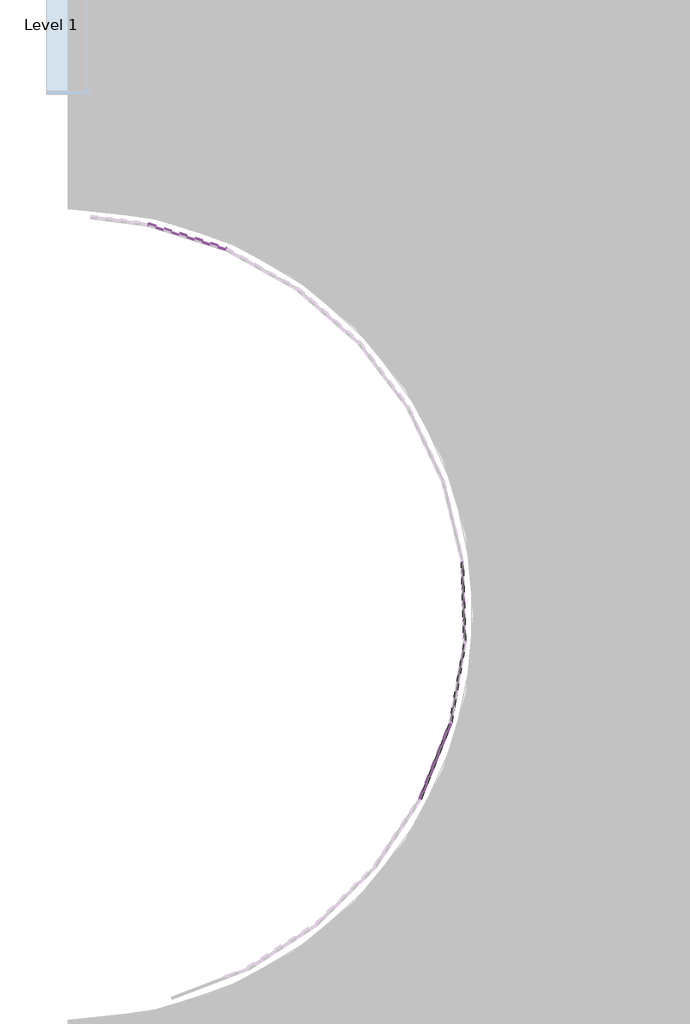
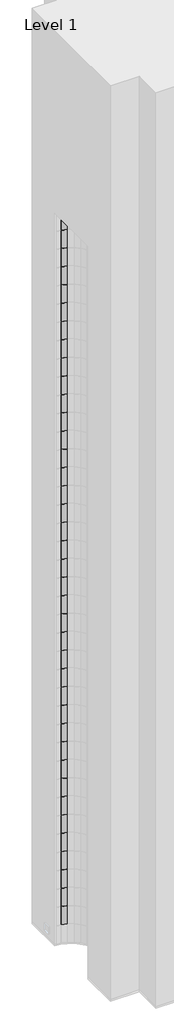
# One storey, part 5 of 20: 122 plates.
"""IFC4 building model written with IfcOpenShell, lengths in millimetres."""

from ifc_helpers import new_model, si_unit, origin, place, context, project, spatial, transform, mapped, element, save
from components import system_panel_glazed_d77d1ebf

model = new_model("IFC4")

# Units and contexts
model_context = context("Model", 3, world=origin())
ifc_project = project(units=[si_unit("LENGTHUNIT", "METRE", prefix="MILLI")], contexts=[model_context])

# Site, building, storey
site = spatial("IfcSite", under=ifc_project)
building = spatial("IfcBuilding", under=site)
storey = spatial("IfcBuildingStorey", under=building, Name="Level 1", Elevation=0.0)

# Plates
placement = place(None, origin())
system_panel_glazed_shape = system_panel_glazed_d77d1ebf(model_context)
element("IfcPlate", 1, ObjectType="System Panel : Glazed", at=placement, inside=storey, context=model_context, shape_type="MappedRepresentation", body=[
    mapped(system_panel_glazed_shape, transform((-10393.2415603, -1968.0681493, 3048.0), x_axis=(-0.9538156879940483, 0.30039246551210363, 0.0), y_axis=(-0.30039246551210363, -0.9538156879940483, 0.0), z_axis=(0.0, 0.0, 1.0))),
])
element("IfcPlate", 2, ObjectType="System Panel : Glazed", at=placement, inside=storey, context=model_context, shape_type="MappedRepresentation", body=[
    mapped(system_panel_glazed_shape, transform((-10393.2415603, -1968.0681493, 6096.0), x_axis=(-0.9538156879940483, 0.30039246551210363, 0.0), y_axis=(-0.30039246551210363, -0.9538156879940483, 0.0), z_axis=(0.0, 0.0, 1.0))),
])
element("IfcPlate", 3, ObjectType="System Panel : Glazed", at=placement, inside=storey, context=model_context, shape_type="MappedRepresentation", body=[
    mapped(system_panel_glazed_shape, transform((-10393.2415603, -1968.0681493, 9144.0), x_axis=(-0.9538156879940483, 0.30039246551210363, 0.0), y_axis=(-0.30039246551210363, -0.9538156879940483, 0.0), z_axis=(0.0, 0.0, 1.0))),
])
element("IfcPlate", 4, ObjectType="System Panel : Glazed", at=placement, inside=storey, context=model_context, shape_type="MappedRepresentation", body=[
    mapped(system_panel_glazed_shape, transform((-10393.2415603, -1968.0681493, 12192.0), x_axis=(-0.9538156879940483, 0.30039246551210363, 0.0), y_axis=(-0.30039246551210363, -0.9538156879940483, 0.0), z_axis=(0.0, 0.0, 1.0))),
])
element("IfcPlate", 5, ObjectType="System Panel : Glazed", at=placement, inside=storey, context=model_context, shape_type="MappedRepresentation", body=[
    mapped(system_panel_glazed_shape, transform((-10393.2415603, -1968.0681493, 15240.0), x_axis=(-0.9538156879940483, 0.30039246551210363, 0.0), y_axis=(-0.30039246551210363, -0.9538156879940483, 0.0), z_axis=(0.0, 0.0, 1.0))),
])
element("IfcPlate", 6, ObjectType="System Panel : Glazed", at=placement, inside=storey, context=model_context, shape_type="MappedRepresentation", body=[
    mapped(system_panel_glazed_shape, transform((-10393.2415603, -1968.0681493, 18288.0), x_axis=(-0.9538156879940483, 0.3003924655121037, 0.0), y_axis=(-0.3003924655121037, -0.9538156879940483, 0.0), z_axis=(0.0, 0.0, 1.0))),
])
element("IfcPlate", 7, ObjectType="System Panel : Glazed", at=placement, inside=storey, context=model_context, shape_type="MappedRepresentation", body=[
    mapped(system_panel_glazed_shape, transform((-10393.2415603, -1968.0681493, 21336.0), x_axis=(-0.9538156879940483, 0.30039246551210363, 0.0), y_axis=(-0.30039246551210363, -0.9538156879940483, 0.0), z_axis=(0.0, 0.0, 1.0))),
])
element("IfcPlate", 8, ObjectType="System Panel : Glazed", at=placement, inside=storey, context=model_context, shape_type="MappedRepresentation", body=[
    mapped(system_panel_glazed_shape, transform((-10393.2415603, -1968.0681493, 24384.0), x_axis=(-0.9538156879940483, 0.30039246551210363, 0.0), y_axis=(-0.30039246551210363, -0.9538156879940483, 0.0), z_axis=(0.0, 0.0, 1.0))),
])
element("IfcPlate", 9, ObjectType="System Panel : Glazed", at=placement, inside=storey, context=model_context, shape_type="MappedRepresentation", body=[
    mapped(system_panel_glazed_shape, transform((-10393.2415603, -1968.0681493, 27432.0), x_axis=(-0.9538156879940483, 0.30039246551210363, 0.0), y_axis=(-0.30039246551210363, -0.9538156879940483, 0.0), z_axis=(0.0, 0.0, 1.0))),
])
element("IfcPlate", 10, ObjectType="System Panel : Glazed", at=placement, inside=storey, context=model_context, shape_type="MappedRepresentation", body=[
    mapped(system_panel_glazed_shape, transform((-10393.2415603, -1968.0681493, 30480.0), x_axis=(-0.9538156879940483, 0.30039246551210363, 0.0), y_axis=(-0.30039246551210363, -0.9538156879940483, 0.0), z_axis=(0.0, 0.0, 1.0))),
])
element("IfcPlate", 11, ObjectType="System Panel : Glazed", at=placement, inside=storey, context=model_context, shape_type="MappedRepresentation", body=[
    mapped(system_panel_glazed_shape, transform((-10393.2415603, -1968.0681493, 33528.0), x_axis=(-0.9538156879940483, 0.30039246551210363, 0.0), y_axis=(-0.30039246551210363, -0.9538156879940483, 0.0), z_axis=(0.0, 0.0, 1.0))),
])
element("IfcPlate", 12, ObjectType="System Panel : Glazed", at=placement, inside=storey, context=model_context, shape_type="MappedRepresentation", body=[
    mapped(system_panel_glazed_shape, transform((-10393.2415603, -1968.0681493, 36576.0), x_axis=(-0.9538156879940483, 0.30039246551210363, 0.0), y_axis=(-0.30039246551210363, -0.9538156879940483, 0.0), z_axis=(0.0, 0.0, 1.0))),
])
element("IfcPlate", 13, ObjectType="System Panel : Glazed", at=placement, inside=storey, context=model_context, shape_type="MappedRepresentation", body=[
    mapped(system_panel_glazed_shape, transform((-10393.2415603, -1968.0681493, 39624.0), x_axis=(-0.9538156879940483, 0.30039246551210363, 0.0), y_axis=(-0.30039246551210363, -0.9538156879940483, 0.0), z_axis=(0.0, 0.0, 1.0))),
])
element("IfcPlate", 14, ObjectType="System Panel : Glazed", at=placement, inside=storey, context=model_context, shape_type="MappedRepresentation", body=[
    mapped(system_panel_glazed_shape, transform((-10393.2415603, -1968.0681493, 42672.0), x_axis=(-0.9538156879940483, 0.30039246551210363, 0.0), y_axis=(-0.30039246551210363, -0.9538156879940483, 0.0), z_axis=(0.0, 0.0, 1.0))),
])
element("IfcPlate", 15, ObjectType="System Panel : Glazed", at=placement, inside=storey, context=model_context, shape_type="MappedRepresentation", body=[
    mapped(system_panel_glazed_shape, transform((-10393.2415603, -1968.0681493, 45720.0), x_axis=(-0.9538156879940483, 0.30039246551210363, 0.0), y_axis=(-0.30039246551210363, -0.9538156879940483, 0.0), z_axis=(0.0, 0.0, 1.0))),
])
element("IfcPlate", 16, ObjectType="System Panel : Glazed", at=placement, inside=storey, context=model_context, shape_type="MappedRepresentation", body=[
    mapped(system_panel_glazed_shape, transform((-10393.2415603, -1968.0681493, 48768.0), x_axis=(-0.9538156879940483, 0.30039246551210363, 0.0), y_axis=(-0.30039246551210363, -0.9538156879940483, 0.0), z_axis=(0.0, 0.0, 1.0))),
])
element("IfcPlate", 17, ObjectType="System Panel : Glazed", at=placement, inside=storey, context=model_context, shape_type="MappedRepresentation", body=[
    mapped(system_panel_glazed_shape, transform((-10393.2415603, -1968.0681493, 51816.0), x_axis=(-0.9538156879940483, 0.30039246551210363, 0.0), y_axis=(-0.30039246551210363, -0.9538156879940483, 0.0), z_axis=(0.0, 0.0, 1.0))),
])
element("IfcPlate", 18, ObjectType="System Panel : Glazed", at=placement, inside=storey, context=model_context, shape_type="MappedRepresentation", body=[
    mapped(system_panel_glazed_shape, transform((-10393.2415603, -1968.0681493, 54864.0), x_axis=(-0.9538156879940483, 0.30039246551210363, 0.0), y_axis=(-0.30039246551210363, -0.9538156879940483, 0.0), z_axis=(0.0, 0.0, 1.0))),
])
element("IfcPlate", 19, ObjectType="System Panel : Glazed", at=placement, inside=storey, context=model_context, shape_type="MappedRepresentation", body=[
    mapped(system_panel_glazed_shape, transform((-10393.2415603, -1968.0681493, 57912.0), x_axis=(-0.9538156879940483, 0.30039246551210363, 0.0), y_axis=(-0.30039246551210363, -0.9538156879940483, 0.0), z_axis=(0.0, 0.0, 1.0))),
])
element("IfcPlate", 20, ObjectType="System Panel : Glazed", at=placement, inside=storey, context=model_context, shape_type="MappedRepresentation", body=[
    mapped(system_panel_glazed_shape, transform((-10393.2415603, -1968.0681493, 60960.0), x_axis=(-0.9538156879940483, 0.30039246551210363, 0.0), y_axis=(-0.30039246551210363, -0.9538156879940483, 0.0), z_axis=(0.0, 0.0, 1.0))),
])
element("IfcPlate", 21, ObjectType="System Panel : Glazed", at=placement, inside=storey, context=model_context, shape_type="MappedRepresentation", body=[
    mapped(system_panel_glazed_shape, transform((-10393.2415603, -1968.0681493, 64008.0), x_axis=(-0.9538156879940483, 0.30039246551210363, 0.0), y_axis=(-0.30039246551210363, -0.9538156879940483, 0.0), z_axis=(0.0, 0.0, 1.0))),
])
element("IfcPlate", 22, ObjectType="System Panel : Glazed", at=placement, inside=storey, context=model_context, shape_type="MappedRepresentation", body=[
    mapped(system_panel_glazed_shape, transform((-10393.2415603, -1968.0681493, 67056.0), x_axis=(-0.9538156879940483, 0.30039246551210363, 0.0), y_axis=(-0.30039246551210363, -0.9538156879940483, 0.0), z_axis=(0.0, 0.0, 1.0))),
])
element("IfcPlate", 23, ObjectType="System Panel : Glazed", at=placement, inside=storey, context=model_context, shape_type="MappedRepresentation", body=[
    mapped(system_panel_glazed_shape, transform((-10393.2415603, -1968.0681493, 70104.0), x_axis=(-0.9538156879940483, 0.30039246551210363, 0.0), y_axis=(-0.30039246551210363, -0.9538156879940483, 0.0), z_axis=(0.0, 0.0, 1.0))),
])
element("IfcPlate", 24, ObjectType="System Panel : Glazed", at=placement, inside=storey, context=model_context, shape_type="MappedRepresentation", body=[
    mapped(system_panel_glazed_shape, transform((-10393.2415603, -1968.0681493, 73152.0), x_axis=(-0.9538156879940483, 0.30039246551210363, 0.0), y_axis=(-0.30039246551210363, -0.9538156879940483, 0.0), z_axis=(0.0, 0.0, 1.0))),
])
element("IfcPlate", 25, ObjectType="System Panel : Glazed", at=placement, inside=storey, context=model_context, shape_type="MappedRepresentation", body=[
    mapped(system_panel_glazed_shape, transform((-10393.2415603, -1968.0681493, 76200.0), x_axis=(-0.9538156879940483, 0.30039246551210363, 0.0), y_axis=(-0.30039246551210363, -0.9538156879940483, 0.0), z_axis=(0.0, 0.0, 1.0))),
])
element("IfcPlate", 26, ObjectType="System Panel : Glazed", at=placement, inside=storey, context=model_context, shape_type="MappedRepresentation", body=[
    mapped(system_panel_glazed_shape, transform((-10393.2415603, -1968.0681493, 79248.0), x_axis=(-0.9538156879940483, 0.30039246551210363, 0.0), y_axis=(-0.30039246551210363, -0.9538156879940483, 0.0), z_axis=(0.0, 0.0, 1.0))),
])
element("IfcPlate", 27, ObjectType="System Panel : Glazed", at=placement, inside=storey, context=model_context, shape_type="MappedRepresentation", body=[
    mapped(system_panel_glazed_shape, transform((-10393.2415603, -1968.0681493, 82296.0), x_axis=(-0.9538156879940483, 0.30039246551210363, 0.0), y_axis=(-0.30039246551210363, -0.9538156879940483, 0.0), z_axis=(0.0, 0.0, 1.0))),
])
element("IfcPlate", 28, ObjectType="System Panel : Glazed", at=placement, inside=storey, context=model_context, shape_type="MappedRepresentation", body=[
    mapped(system_panel_glazed_shape, transform((-10393.2415603, -1968.0681493, 85344.0), x_axis=(-0.9538156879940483, 0.30039246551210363, 0.0), y_axis=(-0.30039246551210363, -0.9538156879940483, 0.0), z_axis=(0.0, 0.0, 1.0))),
])
element("IfcPlate", 29, ObjectType="System Panel : Glazed", at=placement, inside=storey, context=model_context, shape_type="MappedRepresentation", body=[
    mapped(system_panel_glazed_shape, transform((-10393.2415603, -1968.0681493, 88392.0), x_axis=(-0.9538156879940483, 0.30039246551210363, 0.0), y_axis=(-0.30039246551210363, -0.9538156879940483, 0.0), z_axis=(0.0, 0.0, 1.0))),
])
element("IfcPlate", 30, ObjectType="System Panel : Glazed", at=placement, inside=storey, context=model_context, shape_type="MappedRepresentation", body=[
    mapped(system_panel_glazed_shape, transform((-10393.2415603, -1968.0681493, 91440.0), x_axis=(-0.9538156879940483, 0.30039246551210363, 0.0), y_axis=(-0.30039246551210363, -0.9538156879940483, 0.0), z_axis=(0.0, 0.0, 1.0))),
])
element("IfcPlate", 31, ObjectType="System Panel : Glazed", at=placement, inside=storey, context=model_context, shape_type="MappedRepresentation", body=[
    mapped(system_panel_glazed_shape, transform((-10393.2415603, -1968.0681493, 94488.0), x_axis=(-0.9538156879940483, 0.30039246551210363, 0.0), y_axis=(-0.30039246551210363, -0.9538156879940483, 0.0), z_axis=(0.0, 0.0, 1.0))),
])
element("IfcPlate", 32, ObjectType="System Panel : Glazed", at=placement, inside=storey, context=model_context, shape_type="MappedRepresentation", body=[
    mapped(system_panel_glazed_shape, transform((-10393.2415603, -1968.0681493, 97536.0), x_axis=(-0.9538156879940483, 0.30039246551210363, 0.0), y_axis=(-0.30039246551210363, -0.9538156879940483, 0.0), z_axis=(0.0, 0.0, 1.0))),
])
element("IfcPlate", 33, ObjectType="System Panel : Glazed", at=placement, inside=storey, context=model_context, shape_type="MappedRepresentation", body=[
    mapped(system_panel_glazed_shape, transform((-10393.2415603, -1968.0681493, 100584.0), x_axis=(-0.9538156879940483, 0.30039246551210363, 0.0), y_axis=(-0.30039246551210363, -0.9538156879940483, 0.0), z_axis=(0.0, 0.0, 1.0))),
])
element("IfcPlate", 34, ObjectType="System Panel : Glazed", at=placement, inside=storey, context=model_context, shape_type="MappedRepresentation", body=[
    mapped(system_panel_glazed_shape, transform((-7299.7516351, -6055.1517633, 0.0), x_axis=(-0.03010086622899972, 0.9995468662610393, 0.0), y_axis=(-0.9995468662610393, -0.03010086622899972, 0.0), z_axis=(0.0, 0.0, 1.0))),
])
element("IfcPlate", 35, ObjectType="System Panel : Glazed", at=placement, inside=storey, context=model_context, shape_type="MappedRepresentation", body=[
    mapped(system_panel_glazed_shape, transform((-7299.7516351, -6055.1517633, 3048.0), x_axis=(-0.03010086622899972, 0.9995468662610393, 0.0), y_axis=(-0.9995468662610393, -0.03010086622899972, 0.0), z_axis=(0.0, 0.0, 1.0))),
])
element("IfcPlate", 36, ObjectType="System Panel : Glazed", at=placement, inside=storey, context=model_context, shape_type="MappedRepresentation", body=[
    mapped(system_panel_glazed_shape, transform((-7299.7516351, -6055.1517633, 6096.0), x_axis=(-0.03010086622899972, 0.9995468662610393, 0.0), y_axis=(-0.9995468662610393, -0.03010086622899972, 0.0), z_axis=(0.0, 0.0, 1.0))),
])
element("IfcPlate", 37, ObjectType="System Panel : Glazed", at=placement, inside=storey, context=model_context, shape_type="MappedRepresentation", body=[
    mapped(system_panel_glazed_shape, transform((-7299.7516351, -6055.1517633, 9144.0), x_axis=(-0.03010086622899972, 0.9995468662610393, 0.0), y_axis=(-0.9995468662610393, -0.03010086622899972, 0.0), z_axis=(0.0, 0.0, 1.0))),
])
element("IfcPlate", 38, ObjectType="System Panel : Glazed", at=placement, inside=storey, context=model_context, shape_type="MappedRepresentation", body=[
    mapped(system_panel_glazed_shape, transform((-7299.7516351, -6055.1517633, 12192.0), x_axis=(-0.03010086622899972, 0.9995468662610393, 0.0), y_axis=(-0.9995468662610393, -0.03010086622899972, 0.0), z_axis=(0.0, 0.0, 1.0))),
])
element("IfcPlate", 39, ObjectType="System Panel : Glazed", at=placement, inside=storey, context=model_context, shape_type="MappedRepresentation", body=[
    mapped(system_panel_glazed_shape, transform((-7299.7516351, -6055.1517633, 15240.0), x_axis=(-0.03010086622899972, 0.9995468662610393, 0.0), y_axis=(-0.9995468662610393, -0.03010086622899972, 0.0), z_axis=(0.0, 0.0, 1.0))),
])
element("IfcPlate", 40, ObjectType="System Panel : Glazed", at=placement, inside=storey, context=model_context, shape_type="MappedRepresentation", body=[
    mapped(system_panel_glazed_shape, transform((-7299.7516351, -6055.1517633, 18288.0), x_axis=(-0.030100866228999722, 0.9995468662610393, 0.0), y_axis=(-0.9995468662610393, -0.030100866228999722, 0.0), z_axis=(0.0, 0.0, 1.0))),
])
element("IfcPlate", 41, ObjectType="System Panel : Glazed", at=placement, inside=storey, context=model_context, shape_type="MappedRepresentation", body=[
    mapped(system_panel_glazed_shape, transform((-7299.7516351, -6055.1517633, 21336.0), x_axis=(-0.03010086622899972, 0.9995468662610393, 0.0), y_axis=(-0.9995468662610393, -0.03010086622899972, 0.0), z_axis=(0.0, 0.0, 1.0))),
])
element("IfcPlate", 42, ObjectType="System Panel : Glazed", at=placement, inside=storey, context=model_context, shape_type="MappedRepresentation", body=[
    mapped(system_panel_glazed_shape, transform((-7299.7516351, -6055.1517633, 24384.0), x_axis=(-0.03010086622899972, 0.9995468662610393, 0.0), y_axis=(-0.9995468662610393, -0.03010086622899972, 0.0), z_axis=(0.0, 0.0, 1.0))),
])
element("IfcPlate", 43, ObjectType="System Panel : Glazed", at=placement, inside=storey, context=model_context, shape_type="MappedRepresentation", body=[
    mapped(system_panel_glazed_shape, transform((-7299.7516351, -6055.1517633, 27432.0), x_axis=(-0.03010086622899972, 0.9995468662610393, 0.0), y_axis=(-0.9995468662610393, -0.03010086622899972, 0.0), z_axis=(0.0, 0.0, 1.0))),
])
element("IfcPlate", 44, ObjectType="System Panel : Glazed", at=placement, inside=storey, context=model_context, shape_type="MappedRepresentation", body=[
    mapped(system_panel_glazed_shape, transform((-7299.7516351, -6055.1517633, 30480.0), x_axis=(-0.03010086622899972, 0.9995468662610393, 0.0), y_axis=(-0.9995468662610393, -0.03010086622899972, 0.0), z_axis=(0.0, 0.0, 1.0))),
])
element("IfcPlate", 45, ObjectType="System Panel : Glazed", at=placement, inside=storey, context=model_context, shape_type="MappedRepresentation", body=[
    mapped(system_panel_glazed_shape, transform((-7299.7516351, -6055.1517633, 33528.0), x_axis=(-0.03010086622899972, 0.9995468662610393, 0.0), y_axis=(-0.9995468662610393, -0.03010086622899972, 0.0), z_axis=(0.0, 0.0, 1.0))),
])
element("IfcPlate", 46, ObjectType="System Panel : Glazed", at=placement, inside=storey, context=model_context, shape_type="MappedRepresentation", body=[
    mapped(system_panel_glazed_shape, transform((-7299.7516351, -6055.1517633, 36576.0), x_axis=(-0.03010086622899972, 0.9995468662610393, 0.0), y_axis=(-0.9995468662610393, -0.03010086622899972, 0.0), z_axis=(0.0, 0.0, 1.0))),
])
element("IfcPlate", 47, ObjectType="System Panel : Glazed", at=placement, inside=storey, context=model_context, shape_type="MappedRepresentation", body=[
    mapped(system_panel_glazed_shape, transform((-7299.7516351, -6055.1517633, 39624.0), x_axis=(-0.03010086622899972, 0.9995468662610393, 0.0), y_axis=(-0.9995468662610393, -0.03010086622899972, 0.0), z_axis=(0.0, 0.0, 1.0))),
])
element("IfcPlate", 48, ObjectType="System Panel : Glazed", at=placement, inside=storey, context=model_context, shape_type="MappedRepresentation", body=[
    mapped(system_panel_glazed_shape, transform((-7299.7516351, -6055.1517633, 42672.0), x_axis=(-0.03010086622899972, 0.9995468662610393, 0.0), y_axis=(-0.9995468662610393, -0.03010086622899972, 0.0), z_axis=(0.0, 0.0, 1.0))),
])
element("IfcPlate", 49, ObjectType="System Panel : Glazed", at=placement, inside=storey, context=model_context, shape_type="MappedRepresentation", body=[
    mapped(system_panel_glazed_shape, transform((-7299.7516351, -6055.1517633, 45720.0), x_axis=(-0.03010086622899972, 0.9995468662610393, 0.0), y_axis=(-0.9995468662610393, -0.03010086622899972, 0.0), z_axis=(0.0, 0.0, 1.0))),
])
element("IfcPlate", 50, ObjectType="System Panel : Glazed", at=placement, inside=storey, context=model_context, shape_type="MappedRepresentation", body=[
    mapped(system_panel_glazed_shape, transform((-7299.7516351, -6055.1517633, 48768.0), x_axis=(-0.03010086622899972, 0.9995468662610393, 0.0), y_axis=(-0.9995468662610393, -0.03010086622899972, 0.0), z_axis=(0.0, 0.0, 1.0))),
])
element("IfcPlate", 51, ObjectType="System Panel : Glazed", at=placement, inside=storey, context=model_context, shape_type="MappedRepresentation", body=[
    mapped(system_panel_glazed_shape, transform((-7299.7516351, -6055.1517633, 51816.0), x_axis=(-0.03010086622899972, 0.9995468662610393, 0.0), y_axis=(-0.9995468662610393, -0.03010086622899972, 0.0), z_axis=(0.0, 0.0, 1.0))),
])
element("IfcPlate", 52, ObjectType="System Panel : Glazed", at=placement, inside=storey, context=model_context, shape_type="MappedRepresentation", body=[
    mapped(system_panel_glazed_shape, transform((-7299.7516351, -6055.1517633, 54864.0), x_axis=(-0.03010086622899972, 0.9995468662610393, 0.0), y_axis=(-0.9995468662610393, -0.03010086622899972, 0.0), z_axis=(0.0, 0.0, 1.0))),
])
element("IfcPlate", 53, ObjectType="System Panel : Glazed", at=placement, inside=storey, context=model_context, shape_type="MappedRepresentation", body=[
    mapped(system_panel_glazed_shape, transform((-7299.7516351, -6055.1517633, 57912.0), x_axis=(-0.03010086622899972, 0.9995468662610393, 0.0), y_axis=(-0.9995468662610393, -0.03010086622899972, 0.0), z_axis=(0.0, 0.0, 1.0))),
])
element("IfcPlate", 54, ObjectType="System Panel : Glazed", at=placement, inside=storey, context=model_context, shape_type="MappedRepresentation", body=[
    mapped(system_panel_glazed_shape, transform((-7299.7516351, -6055.1517633, 60960.0), x_axis=(-0.03010086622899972, 0.9995468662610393, 0.0), y_axis=(-0.9995468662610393, -0.03010086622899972, 0.0), z_axis=(0.0, 0.0, 1.0))),
])
element("IfcPlate", 55, ObjectType="System Panel : Glazed", at=placement, inside=storey, context=model_context, shape_type="MappedRepresentation", body=[
    mapped(system_panel_glazed_shape, transform((-7299.7516351, -6055.1517633, 64008.0), x_axis=(-0.03010086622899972, 0.9995468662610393, 0.0), y_axis=(-0.9995468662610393, -0.03010086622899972, 0.0), z_axis=(0.0, 0.0, 1.0))),
])
element("IfcPlate", 56, ObjectType="System Panel : Glazed", at=placement, inside=storey, context=model_context, shape_type="MappedRepresentation", body=[
    mapped(system_panel_glazed_shape, transform((-7299.7516351, -6055.1517633, 67056.0), x_axis=(-0.03010086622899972, 0.9995468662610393, 0.0), y_axis=(-0.9995468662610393, -0.03010086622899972, 0.0), z_axis=(0.0, 0.0, 1.0))),
])
element("IfcPlate", 57, ObjectType="System Panel : Glazed", at=placement, inside=storey, context=model_context, shape_type="MappedRepresentation", body=[
    mapped(system_panel_glazed_shape, transform((-7299.7516351, -6055.1517633, 70104.0), x_axis=(-0.03010086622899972, 0.9995468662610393, 0.0), y_axis=(-0.9995468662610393, -0.03010086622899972, 0.0), z_axis=(0.0, 0.0, 1.0))),
])
element("IfcPlate", 58, ObjectType="System Panel : Glazed", at=placement, inside=storey, context=model_context, shape_type="MappedRepresentation", body=[
    mapped(system_panel_glazed_shape, transform((-7299.7516351, -6055.1517633, 73152.0), x_axis=(-0.03010086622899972, 0.9995468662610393, 0.0), y_axis=(-0.9995468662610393, -0.03010086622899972, 0.0), z_axis=(0.0, 0.0, 1.0))),
])
element("IfcPlate", 59, ObjectType="System Panel : Glazed", at=placement, inside=storey, context=model_context, shape_type="MappedRepresentation", body=[
    mapped(system_panel_glazed_shape, transform((-7299.7516351, -6055.1517633, 76200.0), x_axis=(-0.03010086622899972, 0.9995468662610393, 0.0), y_axis=(-0.9995468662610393, -0.03010086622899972, 0.0), z_axis=(0.0, 0.0, 1.0))),
])
element("IfcPlate", 60, ObjectType="System Panel : Glazed", at=placement, inside=storey, context=model_context, shape_type="MappedRepresentation", body=[
    mapped(system_panel_glazed_shape, transform((-7299.7516351, -6055.1517633, 79248.0), x_axis=(-0.03010086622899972, 0.9995468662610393, 0.0), y_axis=(-0.9995468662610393, -0.03010086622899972, 0.0), z_axis=(0.0, 0.0, 1.0))),
])
element("IfcPlate", 61, ObjectType="System Panel : Glazed", at=placement, inside=storey, context=model_context, shape_type="MappedRepresentation", body=[
    mapped(system_panel_glazed_shape, transform((-7299.7516351, -6055.1517633, 82296.0), x_axis=(-0.03010086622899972, 0.9995468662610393, 0.0), y_axis=(-0.9995468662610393, -0.03010086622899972, 0.0), z_axis=(0.0, 0.0, 1.0))),
])
element("IfcPlate", 62, ObjectType="System Panel : Glazed", at=placement, inside=storey, context=model_context, shape_type="MappedRepresentation", body=[
    mapped(system_panel_glazed_shape, transform((-7299.7516351, -6055.1517633, 85344.0), x_axis=(-0.03010086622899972, 0.9995468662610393, 0.0), y_axis=(-0.9995468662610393, -0.03010086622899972, 0.0), z_axis=(0.0, 0.0, 1.0))),
])
element("IfcPlate", 63, ObjectType="System Panel : Glazed", at=placement, inside=storey, context=model_context, shape_type="MappedRepresentation", body=[
    mapped(system_panel_glazed_shape, transform((-7299.7516351, -6055.1517633, 88392.0), x_axis=(-0.03010086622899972, 0.9995468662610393, 0.0), y_axis=(-0.9995468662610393, -0.03010086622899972, 0.0), z_axis=(0.0, 0.0, 1.0))),
])
element("IfcPlate", 64, ObjectType="System Panel : Glazed", at=placement, inside=storey, context=model_context, shape_type="MappedRepresentation", body=[
    mapped(system_panel_glazed_shape, transform((-7299.7516351, -6055.1517633, 91440.0), x_axis=(-0.03010086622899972, 0.9995468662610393, 0.0), y_axis=(-0.9995468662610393, -0.03010086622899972, 0.0), z_axis=(0.0, 0.0, 1.0))),
])
element("IfcPlate", 65, ObjectType="System Panel : Glazed", at=placement, inside=storey, context=model_context, shape_type="MappedRepresentation", body=[
    mapped(system_panel_glazed_shape, transform((-7299.7516351, -6055.1517633, 94488.0), x_axis=(-0.03010086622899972, 0.9995468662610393, 0.0), y_axis=(-0.9995468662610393, -0.03010086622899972, 0.0), z_axis=(0.0, 0.0, 1.0))),
])
element("IfcPlate", 66, ObjectType="System Panel : Glazed", at=placement, inside=storey, context=model_context, shape_type="MappedRepresentation", body=[
    mapped(system_panel_glazed_shape, transform((-7299.7516351, -6055.1517633, 97536.0), x_axis=(-0.03010086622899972, 0.9995468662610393, 0.0), y_axis=(-0.9995468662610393, -0.03010086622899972, 0.0), z_axis=(0.0, 0.0, 1.0))),
])
element("IfcPlate", 67, ObjectType="System Panel : Glazed", at=placement, inside=storey, context=model_context, shape_type="MappedRepresentation", body=[
    mapped(system_panel_glazed_shape, transform((-7299.7516351, -6055.1517633, 100584.0), x_axis=(-0.03010086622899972, 0.9995468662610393, 0.0), y_axis=(-0.9995468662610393, -0.03010086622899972, 0.0), z_axis=(0.0, 0.0, 1.0))),
])
element("IfcPlate", 68, ObjectType="System Panel : Glazed", at=placement, inside=storey, context=model_context, shape_type="MappedRepresentation", body=[
    mapped(system_panel_glazed_shape, transform((-7365.9634866, -6962.2956813, 0.0), x_axis=(0.1749211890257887, 0.9845824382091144, 0.0), y_axis=(-0.9845824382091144, 0.1749211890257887, 0.0), z_axis=(0.0, 0.0, 1.0))),
])
element("IfcPlate", 69, ObjectType="System Panel : Glazed", at=placement, inside=storey, context=model_context, shape_type="MappedRepresentation", body=[
    mapped(system_panel_glazed_shape, transform((-7365.9634866, -6962.2956813, 3048.0), x_axis=(0.1749211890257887, 0.9845824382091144, 0.0), y_axis=(-0.9845824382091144, 0.1749211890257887, 0.0), z_axis=(0.0, 0.0, 1.0))),
])
element("IfcPlate", 70, ObjectType="System Panel : Glazed", at=placement, inside=storey, context=model_context, shape_type="MappedRepresentation", body=[
    mapped(system_panel_glazed_shape, transform((-7365.9634866, -6962.2956813, 6096.0), x_axis=(0.1749211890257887, 0.9845824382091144, 0.0), y_axis=(-0.9845824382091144, 0.1749211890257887, 0.0), z_axis=(0.0, 0.0, 1.0))),
])
element("IfcPlate", 71, ObjectType="System Panel : Glazed", at=placement, inside=storey, context=model_context, shape_type="MappedRepresentation", body=[
    mapped(system_panel_glazed_shape, transform((-7365.9634866, -6962.2956813, 9144.0), x_axis=(0.1749211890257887, 0.9845824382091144, 0.0), y_axis=(-0.9845824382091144, 0.1749211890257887, 0.0), z_axis=(0.0, 0.0, 1.0))),
])
element("IfcPlate", 72, ObjectType="System Panel : Glazed", at=placement, inside=storey, context=model_context, shape_type="MappedRepresentation", body=[
    mapped(system_panel_glazed_shape, transform((-7365.9634866, -6962.2956813, 12192.0), x_axis=(0.1749211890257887, 0.9845824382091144, 0.0), y_axis=(-0.9845824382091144, 0.1749211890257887, 0.0), z_axis=(0.0, 0.0, 1.0))),
])
element("IfcPlate", 73, ObjectType="System Panel : Glazed", at=placement, inside=storey, context=model_context, shape_type="MappedRepresentation", body=[
    mapped(system_panel_glazed_shape, transform((-7365.9634866, -6962.2956813, 15240.0), x_axis=(0.1749211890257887, 0.9845824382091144, 0.0), y_axis=(-0.9845824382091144, 0.1749211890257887, 0.0), z_axis=(0.0, 0.0, 1.0))),
])
element("IfcPlate", 74, ObjectType="System Panel : Glazed", at=placement, inside=storey, context=model_context, shape_type="MappedRepresentation", body=[
    mapped(system_panel_glazed_shape, transform((-7365.9634866, -6962.2956813, 18288.0), x_axis=(0.1749211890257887, 0.9845824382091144, 0.0), y_axis=(-0.9845824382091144, 0.1749211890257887, 0.0), z_axis=(0.0, 0.0, 1.0))),
])
element("IfcPlate", 75, ObjectType="System Panel : Glazed", at=placement, inside=storey, context=model_context, shape_type="MappedRepresentation", body=[
    mapped(system_panel_glazed_shape, transform((-7365.9634866, -6962.2956813, 21336.0), x_axis=(0.1749211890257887, 0.9845824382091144, 0.0), y_axis=(-0.9845824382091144, 0.1749211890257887, 0.0), z_axis=(0.0, 0.0, 1.0))),
])
element("IfcPlate", 76, ObjectType="System Panel : Glazed", at=placement, inside=storey, context=model_context, shape_type="MappedRepresentation", body=[
    mapped(system_panel_glazed_shape, transform((-7365.9634866, -6962.2956813, 24384.0), x_axis=(0.1749211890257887, 0.9845824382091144, 0.0), y_axis=(-0.9845824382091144, 0.1749211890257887, 0.0), z_axis=(0.0, 0.0, 1.0))),
])
element("IfcPlate", 77, ObjectType="System Panel : Glazed", at=placement, inside=storey, context=model_context, shape_type="MappedRepresentation", body=[
    mapped(system_panel_glazed_shape, transform((-7616.2679674, -7836.7336518, 0.0), x_axis=(0.3725514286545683, 0.9280115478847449, 0.0), y_axis=(-0.9280115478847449, 0.3725514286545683, 0.0), z_axis=(0.0, 0.0, 1.0))),
])
element("IfcPlate", 78, ObjectType="System Panel : Glazed", at=placement, inside=storey, context=model_context, shape_type="MappedRepresentation", body=[
    mapped(system_panel_glazed_shape, transform((-7616.2679674, -7836.7336518, 3048.0), x_axis=(0.3725514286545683, 0.9280115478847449, 0.0), y_axis=(-0.9280115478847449, 0.3725514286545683, 0.0), z_axis=(0.0, 0.0, 1.0))),
])
element("IfcPlate", 79, ObjectType="System Panel : Glazed", at=placement, inside=storey, context=model_context, shape_type="MappedRepresentation", body=[
    mapped(system_panel_glazed_shape, transform((-7616.2679674, -7836.7336518, 6096.0), x_axis=(0.3725514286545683, 0.9280115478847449, 0.0), y_axis=(-0.9280115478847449, 0.3725514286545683, 0.0), z_axis=(0.0, 0.0, 1.0))),
])
element("IfcPlate", 80, ObjectType="System Panel : Glazed", at=placement, inside=storey, context=model_context, shape_type="MappedRepresentation", body=[
    mapped(system_panel_glazed_shape, transform((-7616.2679674, -7836.7336518, 9144.0), x_axis=(0.3725514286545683, 0.9280115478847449, 0.0), y_axis=(-0.9280115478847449, 0.3725514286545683, 0.0), z_axis=(0.0, 0.0, 1.0))),
])
element("IfcPlate", 81, ObjectType="System Panel : Glazed", at=placement, inside=storey, context=model_context, shape_type="MappedRepresentation", body=[
    mapped(system_panel_glazed_shape, transform((-7616.2679674, -7836.7336518, 12192.0), x_axis=(0.3725514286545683, 0.9280115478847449, 0.0), y_axis=(-0.9280115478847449, 0.3725514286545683, 0.0), z_axis=(0.0, 0.0, 1.0))),
])
element("IfcPlate", 82, ObjectType="System Panel : Glazed", at=placement, inside=storey, context=model_context, shape_type="MappedRepresentation", body=[
    mapped(system_panel_glazed_shape, transform((-7616.2679674, -7836.7336518, 15240.0), x_axis=(0.3725514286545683, 0.9280115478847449, 0.0), y_axis=(-0.9280115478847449, 0.3725514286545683, 0.0), z_axis=(0.0, 0.0, 1.0))),
])
element("IfcPlate", 83, ObjectType="System Panel : Glazed", at=placement, inside=storey, context=model_context, shape_type="MappedRepresentation", body=[
    mapped(system_panel_glazed_shape, transform((-7616.2679674, -7836.7336518, 18288.0), x_axis=(0.37255142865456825, 0.9280115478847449, 0.0), y_axis=(-0.9280115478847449, 0.37255142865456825, 0.0), z_axis=(0.0, 0.0, 1.0))),
])
element("IfcPlate", 84, ObjectType="System Panel : Glazed", at=placement, inside=storey, context=model_context, shape_type="MappedRepresentation", body=[
    mapped(system_panel_glazed_shape, transform((-7616.2679674, -7836.7336518, 21336.0), x_axis=(0.3725514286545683, 0.9280115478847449, 0.0), y_axis=(-0.9280115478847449, 0.3725514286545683, 0.0), z_axis=(0.0, 0.0, 1.0))),
])
element("IfcPlate", 85, ObjectType="System Panel : Glazed", at=placement, inside=storey, context=model_context, shape_type="MappedRepresentation", body=[
    mapped(system_panel_glazed_shape, transform((-7616.2679674, -7836.7336518, 24384.0), x_axis=(0.3725514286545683, 0.9280115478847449, 0.0), y_axis=(-0.9280115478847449, 0.3725514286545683, 0.0), z_axis=(0.0, 0.0, 1.0))),
])
element("IfcPlate", 86, ObjectType="System Panel : Glazed", at=placement, inside=storey, context=model_context, shape_type="MappedRepresentation", body=[
    mapped(system_panel_glazed_shape, transform((-7616.2679674, -7836.7336518, 27432.0), x_axis=(0.3725514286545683, 0.9280115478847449, 0.0), y_axis=(-0.9280115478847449, 0.3725514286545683, 0.0), z_axis=(0.0, 0.0, 1.0))),
])
element("IfcPlate", 87, ObjectType="System Panel : Glazed", at=placement, inside=storey, context=model_context, shape_type="MappedRepresentation", body=[
    mapped(system_panel_glazed_shape, transform((-7616.2679674, -7836.7336518, 30480.0), x_axis=(0.3725514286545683, 0.9280115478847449, 0.0), y_axis=(-0.9280115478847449, 0.3725514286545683, 0.0), z_axis=(0.0, 0.0, 1.0))),
])
element("IfcPlate", 88, ObjectType="System Panel : Glazed", at=placement, inside=storey, context=model_context, shape_type="MappedRepresentation", body=[
    mapped(system_panel_glazed_shape, transform((-7616.2679674, -7836.7336518, 33528.0), x_axis=(0.3725514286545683, 0.9280115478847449, 0.0), y_axis=(-0.9280115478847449, 0.3725514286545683, 0.0), z_axis=(0.0, 0.0, 1.0))),
])
element("IfcPlate", 89, ObjectType="System Panel : Glazed", at=placement, inside=storey, context=model_context, shape_type="MappedRepresentation", body=[
    mapped(system_panel_glazed_shape, transform((-7616.2679674, -7836.7336518, 36576.0), x_axis=(0.3725514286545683, 0.9280115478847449, 0.0), y_axis=(-0.9280115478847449, 0.3725514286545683, 0.0), z_axis=(0.0, 0.0, 1.0))),
])
element("IfcPlate", 90, ObjectType="System Panel : Glazed", at=placement, inside=storey, context=model_context, shape_type="MappedRepresentation", body=[
    mapped(system_panel_glazed_shape, transform((-7616.2679674, -7836.7336518, 39624.0), x_axis=(0.3725514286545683, 0.9280115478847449, 0.0), y_axis=(-0.9280115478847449, 0.3725514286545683, 0.0), z_axis=(0.0, 0.0, 1.0))),
])
element("IfcPlate", 91, ObjectType="System Panel : Glazed", at=placement, inside=storey, context=model_context, shape_type="MappedRepresentation", body=[
    mapped(system_panel_glazed_shape, transform((-7616.2679674, -7836.7336518, 42672.0), x_axis=(0.3725514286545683, 0.9280115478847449, 0.0), y_axis=(-0.9280115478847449, 0.3725514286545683, 0.0), z_axis=(0.0, 0.0, 1.0))),
])
element("IfcPlate", 92, ObjectType="System Panel : Glazed", at=placement, inside=storey, context=model_context, shape_type="MappedRepresentation", body=[
    mapped(system_panel_glazed_shape, transform((-7616.2679674, -7836.7336518, 45720.0), x_axis=(0.3725514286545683, 0.9280115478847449, 0.0), y_axis=(-0.9280115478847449, 0.3725514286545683, 0.0), z_axis=(0.0, 0.0, 1.0))),
])
element("IfcPlate", 93, ObjectType="System Panel : Glazed", at=placement, inside=storey, context=model_context, shape_type="MappedRepresentation", body=[
    mapped(system_panel_glazed_shape, transform((-7616.2679674, -7836.7336518, 48768.0), x_axis=(0.3725514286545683, 0.9280115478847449, 0.0), y_axis=(-0.9280115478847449, 0.3725514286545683, 0.0), z_axis=(0.0, 0.0, 1.0))),
])
element("IfcPlate", 94, ObjectType="System Panel : Glazed", at=placement, inside=storey, context=model_context, shape_type="MappedRepresentation", body=[
    mapped(system_panel_glazed_shape, transform((-7616.2679674, -7836.7336518, 51816.0), x_axis=(0.3725514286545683, 0.9280115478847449, 0.0), y_axis=(-0.9280115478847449, 0.3725514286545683, 0.0), z_axis=(0.0, 0.0, 1.0))),
])
element("IfcPlate", 95, ObjectType="System Panel : Glazed", at=placement, inside=storey, context=model_context, shape_type="MappedRepresentation", body=[
    mapped(system_panel_glazed_shape, transform((-7616.2679674, -7836.7336518, 54864.0), x_axis=(0.3725514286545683, 0.9280115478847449, 0.0), y_axis=(-0.9280115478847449, 0.3725514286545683, 0.0), z_axis=(0.0, 0.0, 1.0))),
])
element("IfcPlate", 96, ObjectType="System Panel : Glazed", at=placement, inside=storey, context=model_context, shape_type="MappedRepresentation", body=[
    mapped(system_panel_glazed_shape, transform((-7616.2679674, -7836.7336518, 57912.0), x_axis=(0.3725514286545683, 0.9280115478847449, 0.0), y_axis=(-0.9280115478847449, 0.3725514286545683, 0.0), z_axis=(0.0, 0.0, 1.0))),
])
element("IfcPlate", 97, ObjectType="System Panel : Glazed", at=placement, inside=storey, context=model_context, shape_type="MappedRepresentation", body=[
    mapped(system_panel_glazed_shape, transform((-7616.2679674, -7836.7336518, 60960.0), x_axis=(0.3725514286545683, 0.9280115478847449, 0.0), y_axis=(-0.9280115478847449, 0.3725514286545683, 0.0), z_axis=(0.0, 0.0, 1.0))),
])
element("IfcPlate", 98, ObjectType="System Panel : Glazed", at=placement, inside=storey, context=model_context, shape_type="MappedRepresentation", body=[
    mapped(system_panel_glazed_shape, transform((-7616.2679674, -7836.7336518, 64008.0), x_axis=(0.3725514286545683, 0.9280115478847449, 0.0), y_axis=(-0.9280115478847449, 0.3725514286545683, 0.0), z_axis=(0.0, 0.0, 1.0))),
])
element("IfcPlate", 99, ObjectType="System Panel : Glazed", at=placement, inside=storey, context=model_context, shape_type="MappedRepresentation", body=[
    mapped(system_panel_glazed_shape, transform((-7616.2679674, -7836.7336518, 67056.0), x_axis=(0.3725514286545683, 0.9280115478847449, 0.0), y_axis=(-0.9280115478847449, 0.3725514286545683, 0.0), z_axis=(0.0, 0.0, 1.0))),
])
element("IfcPlate", 100, ObjectType="System Panel : Glazed", at=placement, inside=storey, context=model_context, shape_type="MappedRepresentation", body=[
    mapped(system_panel_glazed_shape, transform((-7616.2679674, -7836.7336518, 70104.0), x_axis=(0.3725514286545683, 0.9280115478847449, 0.0), y_axis=(-0.9280115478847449, 0.3725514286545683, 0.0), z_axis=(0.0, 0.0, 1.0))),
])
element("IfcPlate", 101, ObjectType="System Panel : Glazed", at=placement, inside=storey, context=model_context, shape_type="MappedRepresentation", body=[
    mapped(system_panel_glazed_shape, transform((-7616.2679674, -7836.7336518, 73152.0), x_axis=(0.3725514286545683, 0.9280115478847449, 0.0), y_axis=(-0.9280115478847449, 0.3725514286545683, 0.0), z_axis=(0.0, 0.0, 1.0))),
])
element("IfcPlate", 102, ObjectType="System Panel : Glazed", at=placement, inside=storey, context=model_context, shape_type="MappedRepresentation", body=[
    mapped(system_panel_glazed_shape, transform((-7616.2679674, -7836.7336518, 76200.0), x_axis=(0.3725514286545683, 0.9280115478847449, 0.0), y_axis=(-0.9280115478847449, 0.3725514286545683, 0.0), z_axis=(0.0, 0.0, 1.0))),
])
element("IfcPlate", 103, ObjectType="System Panel : Glazed", at=placement, inside=storey, context=model_context, shape_type="MappedRepresentation", body=[
    mapped(system_panel_glazed_shape, transform((-7616.2679674, -7836.7336518, 79248.0), x_axis=(0.3725514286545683, 0.9280115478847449, 0.0), y_axis=(-0.9280115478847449, 0.3725514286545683, 0.0), z_axis=(0.0, 0.0, 1.0))),
])
element("IfcPlate", 104, ObjectType="System Panel : Glazed", at=placement, inside=storey, context=model_context, shape_type="MappedRepresentation", body=[
    mapped(system_panel_glazed_shape, transform((-7616.2679674, -7836.7336518, 82296.0), x_axis=(0.3725514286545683, 0.9280115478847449, 0.0), y_axis=(-0.9280115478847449, 0.3725514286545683, 0.0), z_axis=(0.0, 0.0, 1.0))),
])
element("IfcPlate", 105, ObjectType="System Panel : Glazed", at=placement, inside=storey, context=model_context, shape_type="MappedRepresentation", body=[
    mapped(system_panel_glazed_shape, transform((-7616.2679674, -7836.7336518, 85344.0), x_axis=(0.3725514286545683, 0.9280115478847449, 0.0), y_axis=(-0.9280115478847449, 0.3725514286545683, 0.0), z_axis=(0.0, 0.0, 1.0))),
])
element("IfcPlate", 106, ObjectType="System Panel : Glazed", at=placement, inside=storey, context=model_context, shape_type="MappedRepresentation", body=[
    mapped(system_panel_glazed_shape, transform((-7616.2679674, -7836.7336518, 88392.0), x_axis=(0.3725514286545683, 0.9280115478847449, 0.0), y_axis=(-0.9280115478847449, 0.3725514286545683, 0.0), z_axis=(0.0, 0.0, 1.0))),
])
element("IfcPlate", 107, ObjectType="System Panel : Glazed", at=placement, inside=storey, context=model_context, shape_type="MappedRepresentation", body=[
    mapped(system_panel_glazed_shape, transform((-7616.2679674, -7836.7336518, 91440.0), x_axis=(0.3725514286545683, 0.9280115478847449, 0.0), y_axis=(-0.9280115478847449, 0.3725514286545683, 0.0), z_axis=(0.0, 0.0, 1.0))),
])
element("IfcPlate", 108, ObjectType="System Panel : Glazed", at=placement, inside=storey, context=model_context, shape_type="MappedRepresentation", body=[
    mapped(system_panel_glazed_shape, transform((-7616.2679674, -7836.7336518, 94488.0), x_axis=(0.3725514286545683, 0.9280115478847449, 0.0), y_axis=(-0.9280115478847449, 0.3725514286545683, 0.0), z_axis=(0.0, 0.0, 1.0))),
])
element("IfcPlate", 109, ObjectType="System Panel : Glazed", at=placement, inside=storey, context=model_context, shape_type="MappedRepresentation", body=[
    mapped(system_panel_glazed_shape, transform((-7616.2679674, -7836.7336518, 97536.0), x_axis=(0.3725514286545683, 0.9280115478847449, 0.0), y_axis=(-0.9280115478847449, 0.3725514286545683, 0.0), z_axis=(0.0, 0.0, 1.0))),
])
element("IfcPlate", 110, ObjectType="System Panel : Glazed", at=placement, inside=storey, context=model_context, shape_type="MappedRepresentation", body=[
    mapped(system_panel_glazed_shape, transform((-7616.2679674, -7836.7336518, 100584.0), x_axis=(0.3725514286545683, 0.9280115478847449, 0.0), y_axis=(-0.9280115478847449, 0.3725514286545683, 0.0), z_axis=(0.0, 0.0, 1.0))),
])
element("IfcPlate", 111, ObjectType="System Panel : Glazed", at=placement, inside=storey, context=model_context, shape_type="MappedRepresentation", body=[
    mapped(system_panel_glazed_shape, transform((-7616.2679674, -7836.7336518, 103632.0), x_axis=(0.3725514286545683, 0.9280115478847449, 0.0), y_axis=(-0.9280115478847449, 0.3725514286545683, 0.0), z_axis=(0.0, 0.0, 1.0))),
])
element("IfcPlate", 112, ObjectType="System Panel : Glazed", at=placement, inside=storey, context=model_context, shape_type="MappedRepresentation", body=[
    mapped(system_panel_glazed_shape, transform((-10393.2415603, -1968.0681493, 103632.0), x_axis=(-0.9538156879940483, 0.30039246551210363, 0.0), y_axis=(-0.30039246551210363, -0.9538156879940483, 0.0), z_axis=(0.0, 0.0, 1.0))),
])
element("IfcPlate", 113, ObjectType="System Panel : Glazed", at=placement, inside=storey, context=model_context, shape_type="MappedRepresentation", body=[
    mapped(system_panel_glazed_shape, transform((-7616.2679674, -7836.7336518, 106680.0), x_axis=(0.3725514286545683, 0.9280115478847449, 0.0), y_axis=(-0.9280115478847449, 0.3725514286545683, 0.0), z_axis=(0.0, 0.0, 1.0))),
])
element("IfcPlate", 114, ObjectType="System Panel : Glazed", at=placement, inside=storey, context=model_context, shape_type="MappedRepresentation", body=[
    mapped(system_panel_glazed_shape, transform((-10393.2415603, -1968.0681493, 106680.0), x_axis=(-0.9538156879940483, 0.30039246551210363, 0.0), y_axis=(-0.30039246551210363, -0.9538156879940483, 0.0), z_axis=(0.0, 0.0, 1.0))),
])
element("IfcPlate", 115, ObjectType="System Panel : Glazed", at=placement, inside=storey, context=model_context, shape_type="MappedRepresentation", body=[
    mapped(system_panel_glazed_shape, transform((-7616.2679674, -7836.7336518, 109728.0), x_axis=(0.3725514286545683, 0.9280115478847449, 0.0), y_axis=(-0.9280115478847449, 0.3725514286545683, 0.0), z_axis=(0.0, 0.0, 1.0))),
])
element("IfcPlate", 116, ObjectType="System Panel : Glazed", at=placement, inside=storey, context=model_context, shape_type="MappedRepresentation", body=[
    mapped(system_panel_glazed_shape, transform((-10393.2415603, -1968.0681493, 109728.0), x_axis=(-0.9538156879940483, 0.30039246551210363, 0.0), y_axis=(-0.30039246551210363, -0.9538156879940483, 0.0), z_axis=(0.0, 0.0, 1.0))),
])
element("IfcPlate", 117, ObjectType="System Panel : Glazed", at=placement, inside=storey, context=model_context, shape_type="MappedRepresentation", body=[
    mapped(system_panel_glazed_shape, transform((-7616.2679674, -7836.7336518, 112776.0), x_axis=(0.3725514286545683, 0.9280115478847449, 0.0), y_axis=(-0.9280115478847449, 0.3725514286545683, 0.0), z_axis=(0.0, 0.0, 1.0))),
])
element("IfcPlate", 118, ObjectType="System Panel : Glazed", at=placement, inside=storey, context=model_context, shape_type="MappedRepresentation", body=[
    mapped(system_panel_glazed_shape, transform((-10393.2415603, -1968.0681493, 112776.0), x_axis=(-0.9538156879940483, 0.30039246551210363, 0.0), y_axis=(-0.30039246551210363, -0.9538156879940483, 0.0), z_axis=(0.0, 0.0, 1.0))),
])
element("IfcPlate", 119, ObjectType="System Panel : Glazed", at=placement, inside=storey, context=model_context, shape_type="MappedRepresentation", body=[
    mapped(system_panel_glazed_shape, transform((-7616.2679674, -7836.7336518, 115824.0), x_axis=(0.3725514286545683, 0.9280115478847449, 0.0), y_axis=(-0.9280115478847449, 0.3725514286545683, 0.0), z_axis=(0.0, 0.0, 1.0))),
])
element("IfcPlate", 120, ObjectType="System Panel : Glazed", at=placement, inside=storey, context=model_context, shape_type="MappedRepresentation", body=[
    mapped(system_panel_glazed_shape, transform((-10393.2415603, -1968.0681493, 115824.0), x_axis=(-0.9538156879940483, 0.30039246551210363, 0.0), y_axis=(-0.30039246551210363, -0.9538156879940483, 0.0), z_axis=(0.0, 0.0, 1.0))),
])
element("IfcPlate", 121, ObjectType="System Panel : Glazed", at=placement, inside=storey, context=model_context, shape_type="MappedRepresentation", body=[
    mapped(system_panel_glazed_shape, transform((-7616.2679674, -7836.7336518, 118872.0), x_axis=(0.3725514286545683, 0.9280115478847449, 0.0), y_axis=(-0.9280115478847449, 0.3725514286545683, 0.0), z_axis=(0.0, 0.0, 1.0))),
])
element("IfcPlate", 122, ObjectType="System Panel : Glazed", at=placement, inside=storey, context=model_context, shape_type="MappedRepresentation", body=[
    mapped(system_panel_glazed_shape, transform((-10393.2415603, -1968.0681493, 118872.0), x_axis=(-0.9538156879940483, 0.30039246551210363, 0.0), y_axis=(-0.30039246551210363, -0.9538156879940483, 0.0), z_axis=(0.0, 0.0, 1.0))),
])

save(model, "model.ifc")
